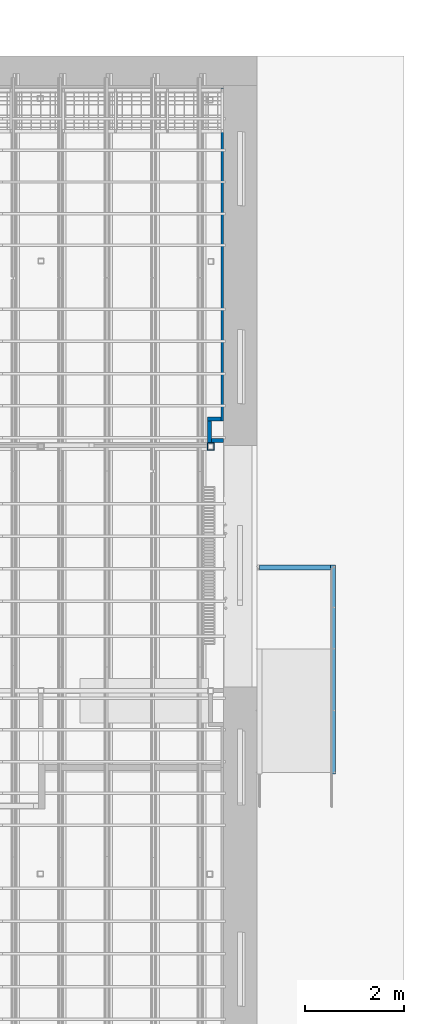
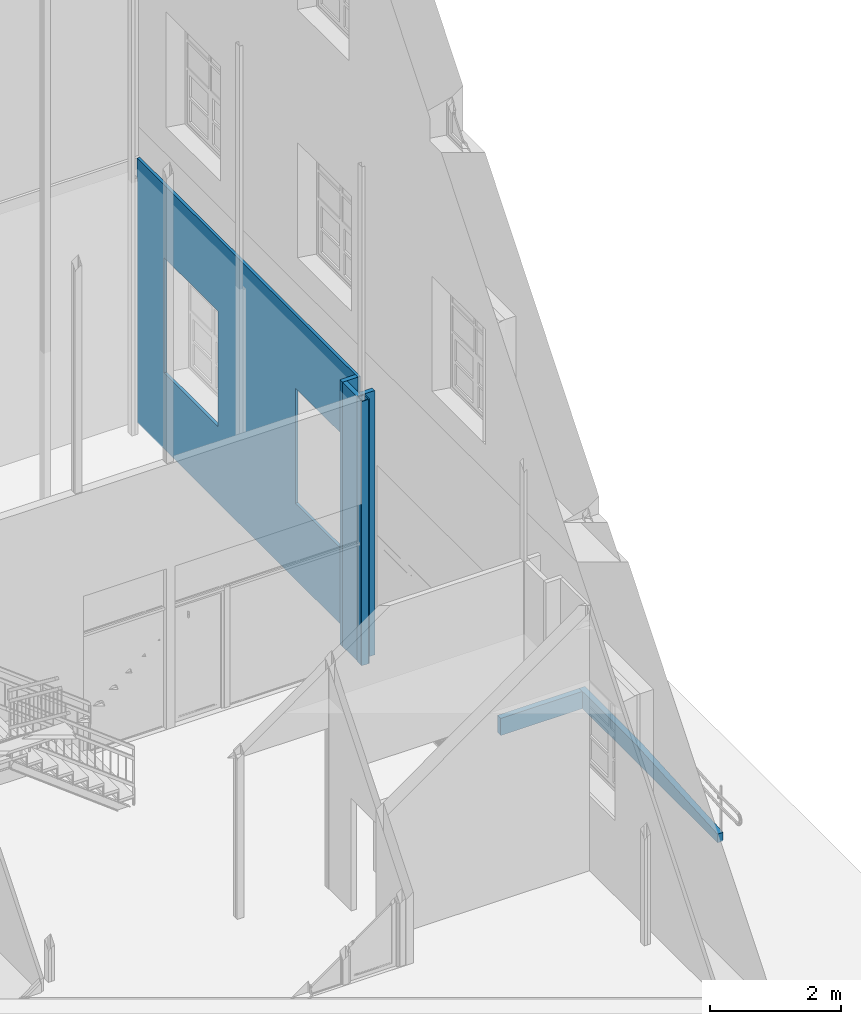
# One storey, part 43 of 75: 10 walls, 2 openings.
"""IFC2X3 building model written with IfcOpenShell, lengths in metres."""

import ifcopenshell
import ifcopenshell.guid

model = None  # the IFC model being written
_history = None  # IfcOwnerHistory: only IFC2X3 demands one
_inside = {}  # id of a spatial element -> (the spatial element, [elements in it])
_under = {}  # id of a project, library or spatial element -> (it, [spatial elements below it])
_declared = {}  # id of a project -> (the project, [libraries it declares])
_typed = {}  # id of a type object -> (the type object, [elements of that type])
_made_of = {}  # id of a material, layer set ... -> (it, [elements and type objects made of it])


def new_model(schema):
    """Start an empty IFC model of exactly this schema.

    Asked for "IFC4X3", IfcOpenShell would pick the latest addendum, in which some entities
    have other attributes; the version numbers below select the first issue.
    IFC2X3 requires an IfcOwnerHistory on every rooted entity: one is made here for all.
    """
    global model, _history
    if schema == "IFC4X3":
        model = ifcopenshell.file(schema_version=(4, 3, 0, 0))
    else:
        model = ifcopenshell.file(schema=schema)
    _inside.clear()
    _under.clear()
    _declared.clear()
    _typed.clear()
    _made_of.clear()
    _history = None
    if model.schema == "IFC2X3":
        org = make("IfcOrganization", Name="unknown")
        user = make(
            "IfcPersonAndOrganization",
            ThePerson=make("IfcPerson", FamilyName="unknown"),
            TheOrganization=org,
        )
        app = make(
            "IfcApplication",
            ApplicationDeveloper=org,
            Version="unknown",
            ApplicationFullName="unknown",
            ApplicationIdentifier="unknown",
        )
        _history = make(
            "IfcOwnerHistory",
            OwningUser=user,
            OwningApplication=app,
            ChangeAction="ADDED",
            CreationDate=0,
        )
    return model


def make(cls, **values):
    """One entity of the class cls with the attributes given. An attribute that is None is left unset."""
    return model.create_entity(
        cls, **{name: value for name, value in values.items() if value is not None}
    )


def entity(cls, *values):
    """Any entity or typed value of the class cls, its attributes in the order of the schema. None: left unset."""
    e = model.create_entity(cls)
    for i, value in enumerate(values):
        if value is not None:
            e[i] = value
    return e


def rooted(cls, **values):
    """An entity with a GlobalId (a new one), such as an element, a storey or a relation."""
    return make(cls, GlobalId=ifcopenshell.guid.new(), OwnerHistory=_history, **values)


def si_unit(unit_type, name, prefix=None):
    """IfcSIUnit, for example si_unit("LENGTHUNIT", "METRE", prefix="MILLI")."""
    return make("IfcSIUnit", UnitType=unit_type, Prefix=prefix, Name=name)


def converted_unit(unit_type, name, factor, base, dimensions=None, offset=None):
    """IfcConversionBasedUnit, such as the inch: factor (a typed value) times the base unit."""
    return make(
        "IfcConversionBasedUnit"
        if offset is None
        else "IfcConversionBasedUnitWithOffset",
        ConversionOffset=offset,
        Dimensions=None
        if dimensions is None
        else entity("IfcDimensionalExponents", *dimensions),
        UnitType=unit_type,
        Name=name,
        ConversionFactor=make(
            "IfcMeasureWithUnit", ValueComponent=factor, UnitComponent=base
        ),
    )


def derived_unit(unit_type, elements):
    """IfcDerivedUnit: a product of units, each with its exponent."""
    return make(
        "IfcDerivedUnit",
        Elements=[
            make("IfcDerivedUnitElement", Unit=unit, Exponent=power)
            for unit, power in elements
        ],
        UnitType=unit_type,
    )


def assignment(units):
    """IfcUnitAssignment: the units of a project."""
    return None if units is None else make("IfcUnitAssignment", Units=units)


def point(xyz):
    """IfcCartesianPoint."""
    return None if xyz is None else make("IfcCartesianPoint", Coordinates=xyz)


def direction(xyz):
    """IfcDirection."""
    return None if xyz is None else make("IfcDirection", DirectionRatios=xyz)


def frame(location, z_axis=None, x_axis=None):
    """IfcAxis2Placement3D, a coordinate frame: its origin and axes. An axis left out is left unset."""
    return make(
        "IfcAxis2Placement3D",
        Location=point(location),
        Axis=direction(z_axis),
        RefDirection=direction(x_axis),
    )


def frame_2d(location, x_axis=None):
    """IfcAxis2Placement2D, a coordinate frame in the plane: its origin and x axis."""
    return make(
        "IfcAxis2Placement2D", Location=point(location), RefDirection=direction(x_axis)
    )


def origin():
    """The frame at (0, 0, 0) with its axes left unset."""
    return frame((0.0, 0.0, 0.0))


def place(relative_to, where):
    """IfcLocalPlacement: puts the frame where relative to a parent placement (None: the world)."""
    return make(
        "IfcLocalPlacement", PlacementRelTo=relative_to, RelativePlacement=where
    )


def context(
    kind, dimensions, precision=None, world=None, true_north=None, identifier=None
):
    """IfcGeometricRepresentationContext, for example the 3D "Model" context."""
    return make(
        "IfcGeometricRepresentationContext",
        ContextIdentifier=identifier,
        ContextType=kind,
        CoordinateSpaceDimension=dimensions,
        Precision=precision,
        WorldCoordinateSystem=world,
        TrueNorth=true_north,
    )


def subcontext(parent, identifier, kind, view, scale=None):
    """IfcGeometricRepresentationSubContext, for example "Body" below "Model"."""
    return make(
        "IfcGeometricRepresentationSubContext",
        ContextIdentifier=identifier,
        ContextType=kind,
        ParentContext=parent,
        TargetScale=scale,
        TargetView=view,
    )


def project(units=None, contexts=None):
    """IfcProject with its units and contexts."""
    return rooted(
        "IfcProject",
        Name="project",
        RepresentationContexts=contexts,
        UnitsInContext=assignment(units),
    )


def spatial(cls, under=None, at=None, **own):
    """A site, building, storey or space (cls), placed at a placement, below another one or the project."""
    s = rooted(cls, ObjectPlacement=at, **own)
    if under is not None:
        _under.setdefault(under.id(), (under, []))[1].append(s)
    return s


def profile(cls, at=None, kind="AREA", **sizes):
    """A parametric profile (cls). Its sizes go by their IFC names, for example OverallWidth=200.0."""
    return make(cls, ProfileType=kind, Position=at, **sizes)


def rectangle(**sizes):
    """IfcRectangleProfileDef."""
    return profile("IfcRectangleProfileDef", **sizes)


def extrude(swept, where, along, depth):
    """IfcExtrudedAreaSolid: the profile swept, set in the frame where, extruded along a direction by depth."""
    return make(
        "IfcExtrudedAreaSolid",
        SweptArea=swept,
        Position=where,
        ExtrudedDirection=direction(along),
        Depth=depth,
    )


def clip(a, b, op="DIFFERENCE"):
    """IfcBooleanClippingResult: the solid a cut by the half space b."""
    return make(
        "IfcBooleanClippingResult", Operator=op, FirstOperand=a, SecondOperand=b
    )


def halfspace(plane, agree):
    """IfcHalfSpaceSolid: all space on one side of the plane z = 0 of the frame plane."""
    return make(
        "IfcHalfSpaceSolid",
        BaseSurface=make("IfcPlane", Position=plane),
        AgreementFlag=agree,
    )


def shape(context_of_items, identifier, shape_type, items):
    """IfcShapeRepresentation: the items that make up one representation, for example the "Body"."""
    return make(
        "IfcShapeRepresentation",
        ContextOfItems=context_of_items,
        RepresentationIdentifier=identifier,
        RepresentationType=shape_type,
        Items=items,
    )


def material(Name=None, Category=None):
    """IfcMaterial."""
    return make("IfcMaterial", Name=Name, Category=Category)


def layer(
    of_material, thickness, ventilated=None, Name=None, Category=None, Priority=None
):
    """IfcMaterialLayer: one layer of a wall or slab, of a material (None: an air gap)."""
    return make(
        "IfcMaterialLayer",
        Material=of_material,
        LayerThickness=thickness,
        IsVentilated=ventilated,
        Name=Name,
        Category=Category,
        Priority=Priority,
    )


def layer_set(layers, Name=None):
    """IfcMaterialLayerSet."""
    return make("IfcMaterialLayerSet", MaterialLayers=layers, LayerSetName=Name)


def layer_usage(for_layer_set, set_direction, sense, offset, extent=None):
    """IfcMaterialLayerSetUsage: how a layer set lies in its element."""
    return make(
        "IfcMaterialLayerSetUsage",
        ForLayerSet=for_layer_set,
        LayerSetDirection=set_direction,
        DirectionSense=sense,
        OffsetFromReferenceLine=offset,
        ReferenceExtent=extent,
    )


def made_of(thing, what):
    """Note that an element or type object is made of a material, layer set ...; save() writes the relation."""
    if what is not None:
        _made_of.setdefault(what.id(), (what, []))[1].append(thing)
    return thing


def type_object(cls, material=None, **own):
    """A type object (cls), such as IfcWallType, which elements share."""
    return made_of(rooted(cls, **own), material)


def element(
    cls,
    number,
    at=None,
    inside=None,
    cuts=None,
    type_object=None,
    material=None,
    context=None,
    identifier="Body",
    shape_type=None,
    held_by="IfcProductDefinitionShape",
    body=None,
    shapes=None,
    **own,
):
    """One element of the class cls, such as IfcWall. Its Tag is "e" and its number.

    at: its placement. inside: the storey or other place that contains it. cuts: it is an
    opening in that element (IfcRelVoidsElement). A single representation is given by context,
    identifier, shape_type and body (its items); several are given by shapes. held_by: the class
    of the entity that holds the representations. save() writes the other relations.
    """
    e = rooted(cls, Tag="e%d" % number, ObjectPlacement=at, **own)
    if body is not None:
        shapes = [shape(context, identifier, shape_type, body)]
    if shapes is not None:
        e.Representation = make(held_by, Representations=shapes)
    if inside is not None:
        _inside.setdefault(inside.id(), (inside, []))[1].append(e)
    if cuts is not None:
        rooted(
            "IfcRelVoidsElement", RelatingBuildingElement=cuts, RelatedOpeningElement=e
        )
    if type_object is not None:
        _typed.setdefault(type_object.id(), (type_object, []))[1].append(e)
    return made_of(e, material)


def aggregate(whole, parts):
    """IfcRelAggregates: a whole, such as a stair, and the parts it consists of."""
    return rooted("IfcRelAggregates", RelatingObject=whole, RelatedObjects=parts)


def save(model, path):
    """Write the relations noted so far, then the file.

    IfcRelAggregates (storeys below a building ...), IfcRelContainedInSpatialStructure (elements
    in a storey), IfcRelDefinesByType, IfcRelAssociatesMaterial and IfcRelDeclares: one each for
    every whole, place, type object, material and project.
    """
    for whole, parts in _under.values():
        aggregate(whole, parts)
    for where, things in _inside.values():
        rooted(
            "IfcRelContainedInSpatialStructure",
            RelatedElements=things,
            RelatingStructure=where,
        )
    for kind, things in _typed.values():
        rooted("IfcRelDefinesByType", RelatedObjects=things, RelatingType=kind)
    for what, things in _made_of.values():
        rooted("IfcRelAssociatesMaterial", RelatedObjects=things, RelatingMaterial=what)
    for by, libraries in _declared.values():
        rooted("IfcRelDeclares", RelatingContext=by, RelatedDefinitions=libraries)
    model.write(path)


model = new_model("IFC2X3")

# Units and contexts
model_context = context("Model", 3, precision=1e-05, world=origin(), true_north=direction((6.12303176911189e-17, 1.0)))
body_context = subcontext(model_context, "Body", "Model", "MODEL_VIEW")
ifc_project = project(units=[si_unit("LENGTHUNIT", "METRE"), si_unit("AREAUNIT", "SQUARE_METRE"), si_unit("VOLUMEUNIT", "CUBIC_METRE"), converted_unit("PLANEANGLEUNIT", "DEGREE", entity("IfcRatioMeasure", 0.0174532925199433), si_unit("PLANEANGLEUNIT", "RADIAN"), dimensions=[0, 0, 0, 0, 0, 0, 0]), si_unit("MASSUNIT", "GRAM", prefix="KILO"), derived_unit("MASSDENSITYUNIT", [(si_unit("MASSUNIT", "GRAM", prefix="KILO"), 1), (si_unit("LENGTHUNIT", "METRE"), -3)]), derived_unit("MOMENTOFINERTIAUNIT", [(si_unit("LENGTHUNIT", "METRE"), 4)]), si_unit("TIMEUNIT", "SECOND"), si_unit("FREQUENCYUNIT", "HERTZ"), si_unit("THERMODYNAMICTEMPERATUREUNIT", "DEGREE_CELSIUS"), derived_unit("THERMALTRANSMITTANCEUNIT", [(si_unit("MASSUNIT", "GRAM", prefix="KILO"), 1), (si_unit("THERMODYNAMICTEMPERATUREUNIT", "KELVIN"), -1), (si_unit("TIMEUNIT", "SECOND"), -3)]), derived_unit("VOLUMETRICFLOWRATEUNIT", [(si_unit("LENGTHUNIT", "METRE"), 3), (si_unit("TIMEUNIT", "SECOND"), -1)]), si_unit("ELECTRICCURRENTUNIT", "AMPERE"), si_unit("ELECTRICVOLTAGEUNIT", "VOLT"), si_unit("POWERUNIT", "WATT"), si_unit("FORCEUNIT", "NEWTON", prefix="KILO"), si_unit("ILLUMINANCEUNIT", "LUX"), si_unit("LUMINOUSFLUXUNIT", "LUMEN"), si_unit("LUMINOUSINTENSITYUNIT", "CANDELA"), derived_unit("USERDEFINED", [(si_unit("MASSUNIT", "GRAM", prefix="KILO"), -1), (si_unit("LENGTHUNIT", "METRE"), -2), (si_unit("TIMEUNIT", "SECOND"), 3), (si_unit("LUMINOUSFLUXUNIT", "LUMEN"), 1)]), derived_unit("LINEARVELOCITYUNIT", [(si_unit("LENGTHUNIT", "METRE"), 1), (si_unit("TIMEUNIT", "SECOND"), -1)]), si_unit("PRESSUREUNIT", "PASCAL"), derived_unit("USERDEFINED", [(si_unit("LENGTHUNIT", "METRE"), -2), (si_unit("MASSUNIT", "GRAM", prefix="KILO"), 1), (si_unit("TIMEUNIT", "SECOND"), -2)]), derived_unit("LINEARFORCEUNIT", [(si_unit("MASSUNIT", "GRAM", prefix="KILO"), 1), (si_unit("LENGTHUNIT", "METRE"), 1), (si_unit("TIMEUNIT", "SECOND"), -2), (si_unit("LENGTHUNIT", "METRE"), -1)]), derived_unit("PLANARFORCEUNIT", [(si_unit("MASSUNIT", "GRAM", prefix="KILO"), 1), (si_unit("LENGTHUNIT", "METRE"), 1), (si_unit("TIMEUNIT", "SECOND"), -2), (si_unit("LENGTHUNIT", "METRE"), -2)])], contexts=[model_context])

# Site, building, storey
site_placement = place(None, origin())
site = spatial("IfcSite", under=ifc_project, at=site_placement, Name="Superficie", CompositionType="ELEMENT")
building_placement = place(site_placement, origin())
building = spatial("IfcBuilding", under=site, at=building_placement, Name="Telegestiones", CompositionType="ELEMENT")
storey_placement = place(building_placement, origin())
storey = spatial("IfcBuildingStorey", under=building, at=storey_placement, Name="Nivel 0_NPT", CompositionType="ELEMENT", Elevation=0.0)

# Walls
ifc_material_1 = material(Name="Muro por defecto")
ifc_layer_1 = layer(ifc_material_1, 0.1)
ifc_layer_set_1 = layer_set([ifc_layer_1], Name="Muro básico:ARQ-MU-EX-10-Gen")
ifc_layer_usage_1 = layer_usage(ifc_layer_set_1, "AXIS2", "NEGATIVE", 0.05)
wall_type_1 = type_object("IfcWallType", Name="Muro básico:ARQ-MU-EX-10-Gen", PredefinedType="STANDARD", material=ifc_layer_set_1)
wall_1_placement = place(storey_placement, frame((17.1867941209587, -0.19386728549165, -0.22), z_axis=(0.0, 0.0, 1.0), x_axis=(0.0, 1.0, 0.0)))
element("IfcWallStandardCase", 1, at=wall_1_placement, inside=storey, type_object=wall_type_1, material=ifc_layer_usage_1, Name="Muro básico:ARQ-MU-EX-10-Gen", ObjectType="Muro básico:ARQ-MU-EX-10-Gen", context=body_context, shape_type="Clipping", body=[
    clip(extrude(rectangle(XDim=4.23, YDim=0.0999999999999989, at=frame_2d((2.115, 1.21430643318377e-16), x_axis=(-1.0, 0.0))), origin(), (0.0, 0.0, 1.0), 0.32), halfspace(frame((0.0, -0.0499999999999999, 0.16), z_axis=(-0.0631150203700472, 0.0, 0.998006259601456), x_axis=(0.0, 1.0, 0.0)), False)),
])
ifc_layer_usage_2 = layer_usage(ifc_layer_set_1, "AXIS2", "POSITIVE", -0.05)
wall_2_placement = place(storey_placement, frame((17.1367941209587, 3.98613271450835, -0.22), z_axis=(0.0, 0.0, 1.0), x_axis=(-1.0, 0.0, 0.0)))
element("IfcWallStandardCase", 2, at=wall_2_placement, inside=storey, type_object=wall_type_1, material=ifc_layer_usage_2, Name="Muro básico:ARQ-MU-EX-10-Gen", ObjectType="Muro básico:ARQ-MU-EX-10-Gen", context=body_context, shape_type="SweptSolid", body=[
    extrude(rectangle(XDim=1.44198149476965, YDim=0.1, at=frame_2d((0.720990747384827, -7.97972798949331e-17), x_axis=(-1.0, 0.0))), origin(), (0.0, 0.0, 1.0), 0.32),
])
ifc_material_2 = material(Name="Placa yeso entera")
ifc_layer_2 = layer(ifc_material_2, 0.01)
ifc_material_3 = material(Name="Estructura de Hierro Galvanizado")
ifc_layer_3 = layer(ifc_material_3, 0.07)
ifc_layer_set_2 = layer_set([ifc_layer_2, ifc_layer_3], Name="Muro básico:ARQ-MU-IN-8-Ye-T3")
ifc_layer_usage_3 = layer_usage(ifc_layer_set_2, "AXIS2", "POSITIVE", -0.04)
wall_type_2 = type_object("IfcWallType", Name="Muro básico:ARQ-MU-IN-8-Ye-T3", PredefinedType="STANDARD", material=ifc_layer_set_2)
wall_3_placement = place(storey_placement, frame((14.9148131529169, 6.99360442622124, -0.0199999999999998), z_axis=(0.0, 0.0, 1.0), x_axis=(-1.0, 1.31681951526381e-05, 0.0)))
element("IfcWallStandardCase", 3, at=wall_3_placement, inside=storey, type_object=wall_type_2, material=ifc_layer_usage_3, Name="Muro básico:ARQ-MU-IN-8-Ye-T3", ObjectType="Muro básico:ARQ-MU-IN-8-Ye-T3", context=body_context, shape_type="SweptSolid", body=[
    extrude(rectangle(XDim=0.268994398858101, YDim=0.0800000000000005, at=frame_2d((0.134497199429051, -8.32667268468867e-17), x_axis=(-1.0, 0.0))), origin(), (0.0, 0.0, 1.0), 4.93),
])
ifc_layer_usage_4 = layer_usage(ifc_layer_set_2, "AXIS2", "POSITIVE", -0.04)
wall_4_placement = place(storey_placement, frame((14.6858192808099, 6.95360796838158, -0.0199999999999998), z_axis=(0.0, 0.0, 1.0), x_axis=(0.0, -1.0, 0.0)))
element("IfcWallStandardCase", 4, at=wall_4_placement, inside=storey, type_object=wall_type_2, material=ifc_layer_usage_4, Name="Muro básico:ARQ-MU-IN-8-Ye-T3", ObjectType="Muro básico:ARQ-MU-IN-8-Ye-T3", context=body_context, shape_type="SweptSolid", body=[
    extrude(rectangle(XDim=0.437995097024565, YDim=0.0799999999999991, at=frame_2d((0.218997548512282, 0.0), x_axis=(-1.0, 0.0))), origin(), (0.0, 0.0, 1.0), 4.93),
])
ifc_layer_usage_5 = layer_usage(ifc_layer_set_2, "AXIS2", "NEGATIVE", 0.04)
wall_5_placement = place(storey_placement, frame((14.9648126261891, 6.55561287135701, -0.0199999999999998), z_axis=(0.0, 0.0, 1.0), x_axis=(-1.0, 0.0, 0.0)))
element("IfcWallStandardCase", 5, at=wall_5_placement, inside=storey, type_object=wall_type_2, material=ifc_layer_usage_5, Name="Muro básico:ARQ-MU-IN-8-Ye-T3", ObjectType="Muro básico:ARQ-MU-IN-8-Ye-T3", context=body_context, shape_type="SweptSolid", body=[
    extrude(rectangle(XDim=0.238993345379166, YDim=0.0799999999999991, at=frame_2d((0.119496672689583, 0.0), x_axis=(-1.0, 0.0))), origin(), (0.0, 0.0, 1.0), 4.93),
])

# Wall, openings
ifc_layer_4 = layer(ifc_material_2, 0.012)
ifc_layer_5 = layer(ifc_material_3, 0.038)
ifc_layer_set_3 = layer_set([ifc_layer_4, ifc_layer_5], Name="Muro básico:ARQ-RE-IN-5-Ye-M2")
ifc_layer_usage_6 = layer_usage(ifc_layer_set_3, "AXIS2", "POSITIVE", -0.025)
wall_type_3 = type_object("IfcWallType", Name="Muro básico:ARQ-RE-IN-5-Ye-M2", PredefinedType="STANDARD", material=ifc_layer_set_3)
wall_6_placement = place(storey_placement, frame((14.9398126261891, 13.6936072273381, -0.0199999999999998), z_axis=(0.0, 0.0, 1.0), x_axis=(0.0, -1.0, 0.0)))
wall_6 = element("IfcWallStandardCase", 6, at=wall_6_placement, inside=storey, type_object=wall_type_3, material=ifc_layer_usage_6, Name="Muro básico:ARQ-RE-IN-5-Ye-M2", ObjectType="Muro básico:ARQ-RE-IN-5-Ye-M2", context=body_context, shape_type="SweptSolid", body=[
    extrude(rectangle(XDim=6.7400034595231, YDim=0.0500000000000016, at=frame_2d((3.37000172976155, 2.77555756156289e-17), x_axis=(-1.0, 0.0))), origin(), (0.0, 0.0, 1.0), 4.93),
])
opening_1_placement = place(wall_6_placement, origin())
element("IfcOpeningElement", 7, at=opening_1_placement, cuts=wall_6, Name="Muro básico:ARQ-RE-IN-5-Ye-M2", ObjectType="Opening", context=body_context, shape_type="SweptSolid", body=[
    extrude(rectangle(XDim=2.15, YDim=1.65000000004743, at=frame_2d((-1.11022302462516e-16, 1.11022302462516e-15), x_axis=(1.0, 0.0))), frame((1.64499999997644, 0.0249999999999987, 2.49499999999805), z_axis=(0.0, -1.0, 0.0), x_axis=(0.0, 0.0, 1.0)), (0.0, 0.0, 1.0), 0.05),
])
opening_2_placement = place(wall_6_placement, origin())
element("IfcOpeningElement", 8, at=opening_2_placement, cuts=wall_6, Name="Muro básico:ARQ-RE-IN-5-Ye-M2", ObjectType="Opening", context=body_context, shape_type="SweptSolid", body=[
    extrude(rectangle(XDim=2.15000000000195, YDim=1.65000000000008, at=frame_2d((-1.11022302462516e-16, -5.55111512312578e-16), x_axis=(1.0, 0.0))), frame((5.65500000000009, 0.0250000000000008, 2.49499999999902), z_axis=(0.0, -1.0, 0.0), x_axis=(0.0, 0.0, 1.0)), (0.0, 0.0, 1.0), 0.05),
])

# Walls
ifc_layer_6 = layer(ifc_material_2, 0.015)
ifc_layer_set_4 = layer_set([ifc_layer_6], Name="Muro básico:ARQ-RE-IN-1.5-Ye")
ifc_layer_usage_7 = layer_usage(ifc_layer_set_4, "AXIS2", "NEGATIVE", 0.0075)
wall_type_4 = type_object("IfcWallType", Name="Muro básico:ARQ-RE-IN-1.5-Ye", PredefinedType="STANDARD", material=ifc_layer_set_4)
wall_7_placement = place(storey_placement, frame((14.6408126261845, 6.50210736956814, -0.0199999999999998)))
element("IfcWallStandardCase", 9, at=wall_7_placement, inside=storey, type_object=wall_type_4, material=ifc_layer_usage_7, Name="Muro básico:ARQ-RE-IN-1.5-Ye", ObjectType="Muro básico:ARQ-RE-IN-1.5-Ye", context=body_context, shape_type="SweptSolid", body=[
    extrude(rectangle(XDim=0.140000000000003, YDim=0.0150000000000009, at=frame_2d((0.0700000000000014, 0.0), x_axis=(-1.0, 0.0))), origin(), (0.0, 0.0, 1.0), 4.93),
])
ifc_layer_usage_8 = layer_usage(ifc_layer_set_4, "AXIS2", "NEGATIVE", 0.0075)
wall_8_placement = place(storey_placement, frame((14.7733126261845, 6.49460736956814, -0.0199999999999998), z_axis=(0.0, 0.0, 1.0), x_axis=(0.0, -1.0, 0.0)))
element("IfcWallStandardCase", 10, at=wall_8_placement, inside=storey, type_object=wall_type_4, material=ifc_layer_usage_8, Name="Muro básico:ARQ-RE-IN-1.5-Ye", ObjectType="Muro básico:ARQ-RE-IN-1.5-Ye", context=body_context, shape_type="SweptSolid", body=[
    extrude(rectangle(XDim=0.135000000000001, YDim=0.0150000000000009, at=frame_2d((0.0675000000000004, 0.0), x_axis=(-1.0, 0.0))), origin(), (0.0, 0.0, 1.0), 4.93),
])
ifc_layer_usage_9 = layer_usage(ifc_layer_set_4, "AXIS2", "POSITIVE", -0.0075)
wall_9_placement = place(storey_placement, frame((14.6408126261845, 6.36710736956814, -0.0199999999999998)))
element("IfcWallStandardCase", 11, at=wall_9_placement, inside=storey, type_object=wall_type_4, material=ifc_layer_usage_9, Name="Muro básico:ARQ-RE-IN-1.5-Ye", ObjectType="Muro básico:ARQ-RE-IN-1.5-Ye", context=body_context, shape_type="SweptSolid", body=[
    extrude(rectangle(XDim=0.125000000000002, YDim=0.0150000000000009, at=frame_2d((0.062500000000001, 0.0), x_axis=(-1.0, 0.0))), origin(), (0.0, 0.0, 1.0), 4.93),
])
ifc_layer_usage_10 = layer_usage(ifc_layer_set_4, "AXIS2", "NEGATIVE", 0.0075)
wall_10_placement = place(storey_placement, frame((14.6483126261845, 6.37460736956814, -0.0199999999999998), z_axis=(0.0, 0.0, 1.0), x_axis=(0.0, 1.0, 0.0)))
element("IfcWallStandardCase", 12, at=wall_10_placement, inside=storey, type_object=wall_type_4, material=ifc_layer_usage_10, Name="Muro básico:ARQ-RE-IN-1.5-Ye", ObjectType="Muro básico:ARQ-RE-IN-1.5-Ye", context=body_context, shape_type="SweptSolid", body=[
    extrude(rectangle(XDim=0.120000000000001, YDim=0.0150000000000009, at=frame_2d((0.0600000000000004, 0.0), x_axis=(-1.0, 0.0))), origin(), (0.0, 0.0, 1.0), 4.93),
])

save(model, "model.ifc")
